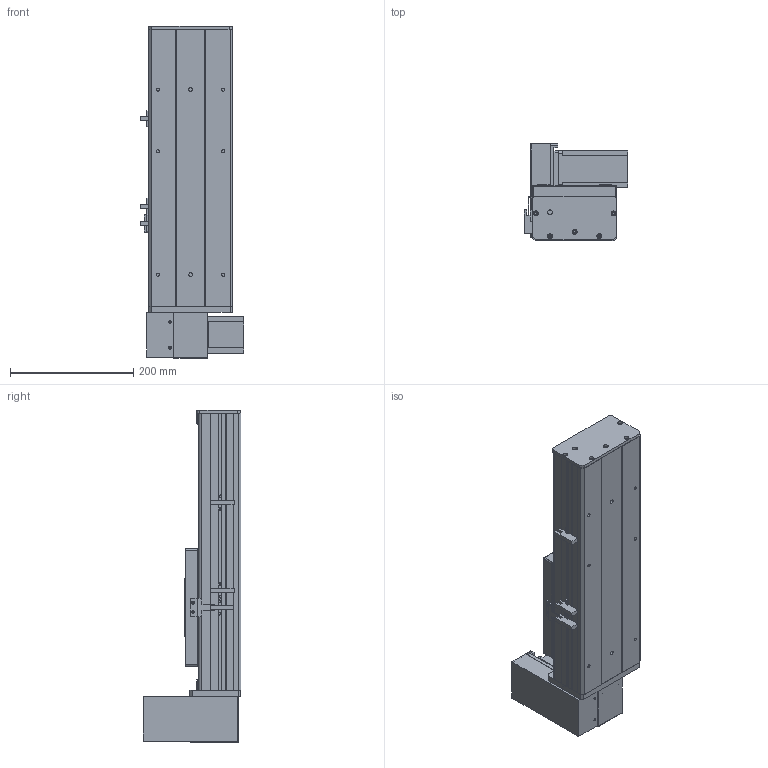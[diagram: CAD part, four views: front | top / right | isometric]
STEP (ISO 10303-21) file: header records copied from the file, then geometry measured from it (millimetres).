
FILE_DESCRIPTION (( 'STEP AP203' ), '1' );
FILE_NAME ('Y135CB-D90-S150-UR-P400W.STEP', '2020-02-18T03:28:38', ( '微软用户' ), ( '微软中国' ), 'SwSTEP 2.0', 'SolidWorks 2017', '' );
FILE_SCHEMA (( 'CONFIG_CONTROL_DESIGN' ));
Length unit declared in the file: millimetre
Products named in the file (18): 0B-埴倛裔啣; 00B-俋欶BM--; 0B-源倛裔啣; Y135CB-D90-S150-UR-P400W; 135CB--詩湍-CE; 0B-萇儂楊擘啣; Y100-135俋离換覜ん--; san松下电机400不带刹车----; Y135C-陔俋离換覜結え-; 5CB --掛极耜裔啣-; 5C--俋欶; C-詩湍揤踡え-陔; Y135CB-耜裔; C-雄赽釱--; 135CB---遴掛极.-; Y10B--々湍喘謫眊--666; 35CB---喘謫眊楊擘啣; Y10B-耜蚾蟀諉啣----
Assembly tree (21 placements, depth 2):
  Y135CB-D90-S150-UR-P400W
    Y135CB-耜裔
    135CB---遴掛极.-
    35CB---喘謫眊楊擘啣
    0B-埴倛裔啣
    0B-源倛裔啣
    0B-萇儂楊擘啣
    san松下电机400不带刹车----
    5CB --掛极耜裔啣-  x2
    C-詩湍揤踡え-陔  x2
    135CB--詩湍-CE
    Y100-135俋离換覜ん--  x3
    Y135C-陔俋离換覜結え-
    5C--俋欶
    C-雄赽釱--
    Y10B--々湍喘謫眊--666
    Y10B-耜蚾蟀諉啣----
    00B-俋欶BM--
Bounding box: 167.5 x 158.7 x 538 mm (x, y, z)
Volume: 2179021.2 mm3; surface area: 830102 mm2
Topology: 21 solids, 21 shells, 929 faces, 2455 edges, 1626 vertices
Faces by surface type: cylinder 457, plane 456, cone 16
Entity records: 28541 total; most frequent: DIRECTION 4739, CARTESIAN_POINT 4636, ORIENTED_EDGE 4386, EDGE_CURVE 2193, AXIS2_PLACEMENT_3D 1721, VERTEX_POINT 1454, VECTOR 1297, LINE 1297
